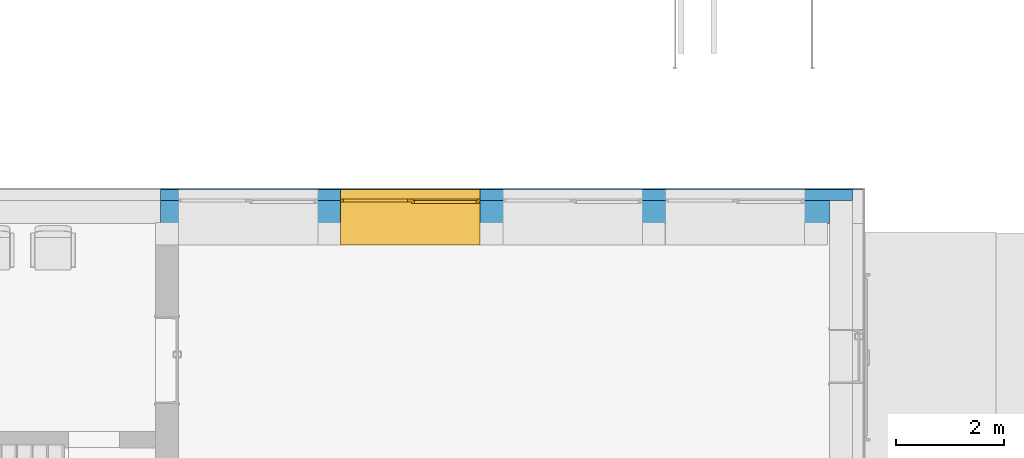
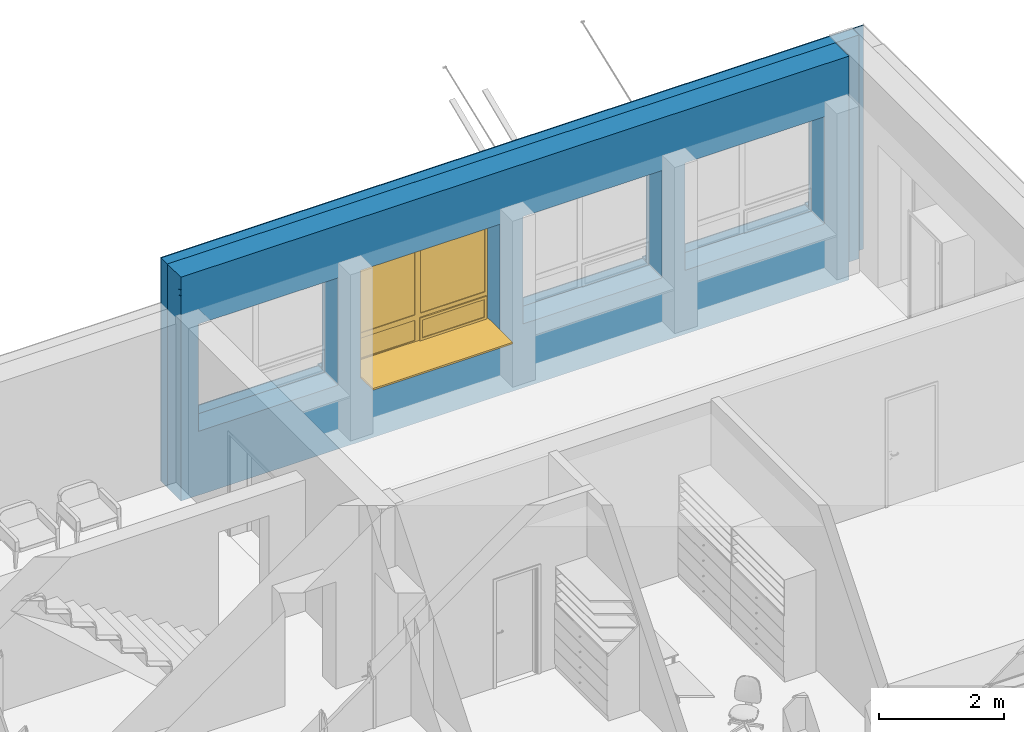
# One storey, part 99 of 194: 3 building element parts, 1 window, 4 openings, 1 element without a shape of its own.
"""IFC2X3 building model written with IfcOpenShell, lengths in millimetres."""

from ifc_helpers import new_model, entity, si_unit, converted_unit, derived_unit, money_unit, direction, frame, origin_with_axes, origin_2d_with_axis, place, context, subcontext, project, spatial, polyline, rectangle, outline, extrude, boolean, open_shell, faceted_brep, surface_model, material, type_object, element, fill, aggregate, save


model = new_model("IFC2X3")

# Units and contexts
model_context = context("Model", 3, precision=1e-05, world=origin_with_axes(), true_north=direction((0.0, 1.0)))
body_context = subcontext(model_context, "Body", "Model", "MODEL_VIEW")
ifc_project = project(units=[si_unit("LENGTHUNIT", "METRE", prefix="MILLI"), si_unit("AREAUNIT", "SQUARE_METRE"), si_unit("VOLUMEUNIT", "CUBIC_METRE"), converted_unit("PLANEANGLEUNIT", "DEGREE", entity("IfcPlaneAngleMeasure", 0.0174532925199), si_unit("PLANEANGLEUNIT", "RADIAN"), dimensions=[0, 0, 0, 0, 0, 0, 0]), si_unit("SOLIDANGLEUNIT", "STERADIAN"), money_unit("EUR"), converted_unit("TIMEUNIT", "Year", entity("IfcTimeMeasure", 31556926.0), si_unit("TIMEUNIT", "SECOND"), dimensions=[0, 0, 1, 0, 0, 0, 0]), si_unit("MASSUNIT", "GRAM", prefix="KILO"), si_unit("THERMODYNAMICTEMPERATUREUNIT", "DEGREE_CELSIUS"), si_unit("LUMINOUSINTENSITYUNIT", "LUMEN"), si_unit("ENERGYUNIT", "JOULE", prefix="MEGA"), derived_unit("THERMALCONDUCTANCEUNIT", [(si_unit("POWERUNIT", "WATT"), 1), (si_unit("LENGTHUNIT", "METRE"), -1), (si_unit("THERMODYNAMICTEMPERATUREUNIT", "KELVIN"), -1)]), derived_unit("SPECIFICHEATCAPACITYUNIT", [(si_unit("ENERGYUNIT", "JOULE"), 1), (si_unit("MASSUNIT", "GRAM", prefix="KILO"), -1), (si_unit("THERMODYNAMICTEMPERATUREUNIT", "KELVIN"), -1)]), derived_unit("MASSDENSITYUNIT", [(si_unit("MASSUNIT", "GRAM", prefix="KILO"), 1), (si_unit("VOLUMEUNIT", "CUBIC_METRE"), -1)])], contexts=[model_context])

# Site, building, storey
site_placement = place(None, origin_with_axes())
site = spatial("IfcSite", under=ifc_project, at=site_placement, Name="Site", CompositionType="ELEMENT")
building_placement = place(site_placement, origin_with_axes())
building = spatial("IfcBuilding", under=site, at=building_placement, Name="Building", CompositionType="ELEMENT")
storey_placement = place(building_placement, frame((0.0, 0.0, 3000.0), z_axis=(0.0, 0.0, 1.0), x_axis=(1.0, 0.0, 0.0)))
storey = spatial("IfcBuildingStorey", under=building, at=storey_placement, Name="2 KORRUS", CompositionType="ELEMENT", Elevation=3000.0)

# Window
window_style = type_object("IfcWindowStyle", Name="A2   2\xa0580×2\xa0100", ConstructionType="NOTDEFINED", OperationType="USERDEFINED", ParameterTakesPrecedence=False, Sizeable=False)
wall_placement = place(storey_placement, frame((87829.1670684, 47302.325893, -400.0), z_axis=(0.0, 0.0, 1.0), x_axis=(1.0, 0.0, 0.0)))
opening_1_placement = place(wall_placement, frame((4618.18571631, 0.0, 1250.0), z_axis=(0.0, 0.0, 1.0), x_axis=(1.0, 0.0, 0.0)))
window_placement = place(opening_1_placement, frame((1290.0, 0.0, 0.0), z_axis=(0.0, 0.0, 1.0), x_axis=(-1.0, 0.0, 0.0)))
window = element("IfcWindow", 1, at=window_placement, inside=storey, type_object=window_style, Name="välisaken * Double Window 22", OverallHeight=2100.0, OverallWidth=2580.0, context=body_context, shape_type="SurfaceModel", body=[
    faceted_brep([(2580.0, -219.999999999, 5.0), (2580.0, -19.9999999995, 5.0), (2580.0, -19.9999999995, 30.0), (2580.0, -219.999999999, 19.5184441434), (0.0, -19.9999999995, 5.0), (0.0, -219.999999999, 5.0), (0.0, -19.9999999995, 30.0), (0.0, -219.999999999, 19.5184441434)], [[[0, 1, 2, 3]], [[4, 1, 0, 5]], [[1, 4, 6, 2]], [[3, 2, 6, 7]], [[5, 0, 3, 7]], [[4, 5, 7, 6]]]),
    faceted_brep([(2580.0, -19.9999999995, 0.0), (2580.0, -19.9999999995, 5.0), (2580.0, -219.999999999, 5.0), (2580.0, -219.999999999, 0.0), (0.0, -19.9999999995, 0.0), (0.0, -19.9999999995, 5.0), (0.0, -219.999999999, 5.0), (0.0, -219.999999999, 0.0)], [[[0, 1, 2, 3]], [[4, 5, 1, 0]], [[1, 5, 6, 2]], [[3, 2, 6, 7]], [[0, 3, 7, 4]], [[7, 6, 5, 4]]]),
    faceted_brep([(0.0, 30.0000000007, 0.0), (0.0, 30.0000000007, 30.0), (0.0, 430.0, 30.0), (0.0, 430.0, 0.0), (2580.0, 30.0000000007, 0.0), (2580.0, 30.0000000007, 30.0), (2580.0, 430.0, 30.0), (2580.0, 830.000000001, 30.0), (0.0, 830.000000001, 30.0), (0.0, 830.000000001, 0.0), (2580.0, 830.000000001, 0.0), (2580.0, 430.0, 0.0)], [[[0, 1, 2, 3]], [[4, 5, 1, 0]], [[1, 5, 6, 7, 8, 2]], [[3, 2, 8, 9]], [[0, 3, 9, 10, 11, 4]], [[11, 6, 5, 4]], [[10, 7, 6, 11]], [[9, 8, 7, 10]]]),
    faceted_brep([(25.0, 30.0000000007, 475.0), (25.0, 30.0000000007, 50.0), (0.0, 30.0000000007, 50.0), (0.0, 30.0000000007, 2050.0), (50.0, 30.0000000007, 2050.0), (50.0, 30.0000000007, 550.0), (50.0, 30.0000000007, 475.0), (25.0, 5.00000000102, 475.0), (25.0, 5.00000000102, 50.0), (50.0, 5.00000000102, 50.0), (50.0, -19.9999999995, 50.0), (0.0, -19.9999999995, 50.0), (0.0, -19.9999999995, 2050.0), (50.0, -19.9999999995, 2050.0), (50.0, -19.9999999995, 550.0), (50.0, 5.00000000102, 475.0), (50.0, -19.9999999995, 450.0), (50.0, 5.00000000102, 450.0)], [[[0, 1, 2, 3, 4, 5, 6]], [[1, 0, 7, 8]], [[8, 9, 10, 11, 2, 1]], [[2, 11, 12, 3]], [[3, 12, 13, 4]], [[4, 13, 14, 5]], [[15, 6, 5, 14, 16, 17]], [[0, 6, 15, 7]], [[9, 8, 7, 15, 17]], [[9, 17, 16, 10]], [[11, 10, 16, 14, 13, 12]]]),
    faceted_brep([(1265.0, 30.0000000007, 50.0), (1265.0, 30.0000000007, 475.0), (1240.0, 30.0000000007, 475.0), (1240.0, 30.0000000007, 550.0), (1240.0, 30.0000000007, 2050.0), (1340.0, 30.0000000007, 2050.0), (1340.0, 30.0000000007, 550.0), (1340.0, 30.0000000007, 450.0), (1340.0, 30.0000000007, 50.0), (1265.0, 5.00000000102, 50.0), (1265.0, 5.00000000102, 475.0), (1240.0, 5.00000000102, 475.0), (1240.0, 5.00000000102, 450.0), (1240.0, -19.9999999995, 450.0), (1240.0, -19.9999999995, 550.0), (1240.0, -19.9999999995, 2050.0), (1340.0, -19.9999999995, 2050.0), (1340.0, -19.9999999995, 550.0), (1340.0, -19.9999999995, 450.0), (1340.0, -19.9999999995, 50.0), (1240.0, -19.9999999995, 50.0), (1240.0, 5.00000000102, 50.0)], [[[0, 1, 2, 3, 4, 5, 6, 7, 8]], [[1, 0, 9, 10]], [[11, 2, 1, 10]], [[11, 12, 13, 14, 3, 2]], [[3, 14, 15, 4]], [[4, 15, 16, 5]], [[5, 16, 17, 6]], [[6, 17, 18, 7]], [[7, 18, 19, 8]], [[9, 0, 8, 19, 20, 21]], [[12, 11, 10, 9, 21]], [[12, 21, 20, 13]], [[18, 17, 16, 15, 14, 13, 20, 19]]]),
    faceted_brep([(1240.0, 30.0000000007, 475.0), (50.0, 30.0000000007, 475.0), (50.0, 30.0000000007, 550.0), (1240.0, 30.0000000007, 550.0), (50.0, 5.00000000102, 475.0), (1240.0, 5.00000000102, 475.0), (50.0, 5.00000000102, 450.0), (50.0, -19.9999999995, 450.0), (50.0, -19.9999999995, 550.0), (1240.0, -19.9999999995, 550.0), (1240.0, -19.9999999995, 450.0), (1240.0, 5.00000000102, 450.0)], [[[0, 1, 2, 3]], [[4, 1, 0, 5]], [[4, 6, 7, 8, 2, 1]], [[2, 8, 9, 3]], [[5, 0, 3, 9, 10, 11]], [[6, 4, 5, 11]], [[6, 11, 10, 7]], [[10, 9, 8, 7]]]),
    faceted_brep([(50.0, 5.00000000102, 50.0), (25.0, 5.00000000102, 50.0), (25.0, 30.0000000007, 50.0), (0.0, 30.0000000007, 50.0), (0.0, -19.9999999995, 50.0), (50.0, -19.9999999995, 50.0), (1240.0, 5.00000000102, 50.0), (1265.0, 5.00000000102, 50.0), (1265.0, 5.00000000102, 25.0), (25.0, 5.00000000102, 25.0), (25.0, 30.0000000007, 25.0), (1265.0, 30.0000000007, 25.0), (1265.0, 30.0000000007, 50.0), (1340.0, 30.0000000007, 50.0), (2530.0, 30.0000000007, 50.0), (2580.0, 30.0000000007, 50.0), (2580.0, 30.0000000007, 0.0), (0.0, 30.0000000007, 0.0), (0.0, -19.9999999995, 0.0), (2580.0, -19.9999999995, 50.0), (2530.0, -19.9999999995, 50.0), (1340.0, -19.9999999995, 50.0), (1240.0, -19.9999999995, 50.0), (2580.0, -19.9999999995, 0.0)], [[[0, 1, 2, 3, 4, 5]], [[1, 0, 6, 7, 8, 9]], [[10, 2, 1, 9]], [[11, 12, 13, 14, 15, 16, 17, 3, 2, 10]], [[17, 18, 4, 3]], [[19, 20, 21, 22, 5, 4, 18, 23]], [[6, 0, 5, 22]], [[7, 6, 22, 21, 13, 12]], [[7, 12, 11, 8]], [[11, 10, 9, 8]], [[13, 21, 20, 14]], [[14, 20, 19, 15]], [[15, 19, 23, 16]], [[16, 23, 18, 17]]]),
    faceted_brep([(2530.0, -19.9999999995, 450.0), (2530.0, -19.9999999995, 550.0), (2530.0, 30.0000000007, 550.0), (2530.0, 30.0000000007, 450.0), (2530.0, -19.9999999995, 50.0), (2580.0, -19.9999999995, 50.0), (2580.0, -19.9999999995, 2050.0), (2530.0, -19.9999999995, 2050.0), (2530.0, 30.0000000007, 2050.0), (2580.0, 30.0000000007, 2050.0), (2580.0, 30.0000000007, 50.0), (2530.0, 30.0000000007, 50.0)], [[[0, 1, 2, 3]], [[0, 4, 5, 6, 7, 1]], [[1, 7, 8, 2]], [[3, 2, 8, 9, 10, 11]], [[4, 0, 3, 11]], [[5, 4, 11, 10]], [[6, 5, 10, 9]], [[7, 6, 9, 8]]]),
    faceted_brep([(1340.0, -19.9999999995, 450.0), (1340.0, -19.9999999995, 550.0), (1340.0, 30.0000000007, 550.0), (1340.0, 30.0000000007, 450.0), (2530.0, -19.9999999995, 450.0), (2530.0, -19.9999999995, 550.0), (2530.0, 30.0000000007, 550.0), (2530.0, 30.0000000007, 450.0)], [[[0, 1, 2, 3]], [[0, 4, 5, 1]], [[1, 5, 6, 2]], [[3, 2, 6, 7]], [[4, 0, 3, 7]], [[5, 4, 7, 6]]]),
    faceted_brep([(1340.0, -19.9999999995, 2050.0), (1240.0, -19.9999999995, 2050.0), (1240.0, 30.0000000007, 2050.0), (1340.0, 30.0000000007, 2050.0), (2530.0, -19.9999999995, 2050.0), (2580.0, -19.9999999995, 2050.0), (2580.0, -19.9999999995, 2100.0), (0.0, -19.9999999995, 2100.0), (0.0, -19.9999999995, 2050.0), (50.0, -19.9999999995, 2050.0), (50.0, 30.0000000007, 2050.0), (0.0, 30.0000000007, 2050.0), (0.0, 30.0000000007, 2100.0), (2580.0, 30.0000000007, 2100.0), (2580.0, 30.0000000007, 2050.0), (2530.0, 30.0000000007, 2050.0)], [[[0, 1, 2, 3]], [[0, 4, 5, 6, 7, 8, 9, 1]], [[1, 9, 10, 2]], [[3, 2, 10, 11, 12, 13, 14, 15]], [[4, 0, 3, 15]], [[5, 4, 15, 14]], [[6, 5, 14, 13]], [[7, 6, 13, 12]], [[8, 7, 12, 11]], [[9, 8, 11, 10]]]),
    surface_model("IfcShellBasedSurfaceModel", [(2530.0, -4.9999999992, 550.0), (2530.0, -4.9999999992, 2050.0), (1340.0, -4.9999999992, 2050.0), (1340.0, -4.9999999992, 550.0)], [open_shell([[[0, 1, 2, 3]]])]),
    surface_model("IfcShellBasedSurfaceModel", [(2530.0, 15.0000000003, 550.0), (1340.0, 15.0000000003, 550.0), (1340.0, 15.0000000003, 2050.0), (2530.0, 15.0000000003, 2050.0)], [open_shell([[[0, 1, 2, 3]]])]),
    surface_model("IfcShellBasedSurfaceModel", [(1240.0, -4.9999999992, 550.0), (1240.0, -4.9999999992, 2050.0), (50.0, -4.9999999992, 2050.0), (50.0, -4.9999999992, 550.0)], [open_shell([[[0, 1, 2, 3]]])]),
    surface_model("IfcShellBasedSurfaceModel", [(1240.0, 15.0000000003, 550.0), (50.0, 15.0000000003, 550.0), (50.0, 15.0000000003, 2050.0), (1240.0, 15.0000000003, 2050.0)], [open_shell([[[0, 1, 2, 3]]])]),
    surface_model("IfcShellBasedSurfaceModel", [(2530.0, -4.9999999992, 50.0), (2530.0, -4.9999999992, 450.0), (1340.0, -4.9999999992, 450.0), (1340.0, -4.9999999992, 50.0)], [open_shell([[[0, 1, 2, 3]]])]),
    surface_model("IfcShellBasedSurfaceModel", [(2530.0, 15.0000000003, 50.0), (1340.0, 15.0000000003, 50.0), (1340.0, 15.0000000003, 450.0), (2530.0, 15.0000000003, 450.0)], [open_shell([[[0, 1, 2, 3]]])]),
    faceted_brep([(1215.0, 5.00000000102, 425.0), (1265.0, 5.00000000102, 425.0), (1265.0, 55.0000000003, 425.0), (1215.0, 55.0000000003, 425.0), (1215.0, 5.00000000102, 75.0), (1265.0, 5.00000000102, 75.0), (1265.0, 55.0000000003, 75.0), (1215.0, 55.0000000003, 75.0)], [[[0, 1, 2, 3]], [[0, 4, 5, 1]], [[1, 5, 6, 2]], [[3, 2, 6, 7]], [[4, 0, 3, 7]], [[5, 4, 7, 6]]]),
    faceted_brep([(74.9999999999, 5.00000000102, 75.0), (25.0, 5.00000000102, 75.0), (25.0, 55.0000000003, 75.0), (74.9999999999, 55.0000000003, 75.0), (74.9999999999, 5.00000000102, 425.0), (25.0, 5.00000000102, 425.0), (25.0, 55.0000000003, 425.0), (74.9999999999, 55.0000000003, 425.0)], [[[0, 1, 2, 3]], [[0, 4, 5, 1]], [[1, 5, 6, 2]], [[3, 2, 6, 7]], [[4, 0, 3, 7]], [[5, 4, 7, 6]]]),
    faceted_brep([(25.0, 5.00000000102, 25.0), (25.0, 5.00000000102, 75.0), (25.0, 55.0000000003, 75.0), (25.0, 55.0000000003, 25.0), (1265.0, 5.00000000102, 25.0), (1265.0, 5.00000000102, 75.0), (1215.0, 5.00000000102, 75.0), (74.9999999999, 5.00000000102, 75.0), (74.9999999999, 55.0000000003, 75.0), (1215.0, 55.0000000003, 75.0), (1265.0, 55.0000000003, 75.0), (1265.0, 55.0000000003, 25.0)], [[[0, 1, 2, 3]], [[0, 4, 5, 6, 7, 1]], [[1, 7, 8, 2]], [[3, 2, 8, 9, 10, 11]], [[4, 0, 3, 11]], [[5, 4, 11, 10]], [[6, 5, 10, 9]], [[7, 6, 9, 8]]]),
    faceted_brep([(1265.0, 5.00000000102, 475.0), (1265.0, 5.00000000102, 425.0), (1265.0, 55.0000000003, 425.0), (1265.0, 55.0000000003, 475.0), (25.0, 5.00000000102, 475.0), (25.0, 5.00000000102, 425.0), (74.9999999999, 5.00000000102, 425.0), (1215.0, 5.00000000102, 425.0), (1215.0, 55.0000000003, 425.0), (74.9999999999, 55.0000000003, 425.0), (25.0, 55.0000000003, 425.0), (25.0, 55.0000000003, 475.0)], [[[0, 1, 2, 3]], [[0, 4, 5, 6, 7, 1]], [[1, 7, 8, 2]], [[3, 2, 8, 9, 10, 11]], [[4, 0, 3, 11]], [[5, 4, 11, 10]], [[6, 5, 10, 9]], [[7, 6, 9, 8]]]),
    surface_model("IfcShellBasedSurfaceModel", [(1215.0, 20.0000000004, 75.0), (1215.0, 20.0000000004, 425.0), (74.9999999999, 20.0000000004, 425.0), (74.9999999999, 20.0000000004, 75.0)], [open_shell([[[0, 1, 2, 3]]])]),
    surface_model("IfcShellBasedSurfaceModel", [(1215.0, 40.0000000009, 75.0), (74.9999999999, 40.0000000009, 75.0), (74.9999999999, 40.0000000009, 425.0), (1215.0, 40.0000000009, 425.0)], [open_shell([[[0, 1, 2, 3]]])]),
])

# Wall, opening
wall_type = type_object("IfcWallType", Name="VS4", PredefinedType="NOTDEFINED")
wall = element("IfcWall", 2, at=wall_placement, inside=storey, type_object=wall_type, Name="VS4")
opening_1 = element("IfcOpeningElement", 3, at=opening_1_placement, cuts=wall, Name="välisaken * Double Window 22", context=body_context, shape_type="SweptSolid", body=[
    extrude(rectangle(XDim=2580.0, YDim=2100.0, at=origin_2d_with_axis()), frame((0.0, 19.9999999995, 1050.0), z_axis=(0.0, -1.0, 0.0), x_axis=(1.0, 0.0, 0.0)), (0.0, 0.0, 1.0), 1100.0),
    extrude(rectangle(XDim=2580.0, YDim=2100.0, at=origin_2d_with_axis()), frame((0.0, 19.9999999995, 1050.0), z_axis=(0.0, 1.0, 0.0), x_axis=(1.0, 0.0, 0.0)), (0.0, 0.0, 1.0), 850.0),
])

fill(opening_1, window)

# Opening
opening_2_placement = place(wall_placement, frame((7618.18571631, 0.0, 1250.0), z_axis=(0.0, 0.0, 1.0), x_axis=(1.0, 0.0, 0.0)))
element("IfcOpeningElement", 4, at=opening_2_placement, cuts=wall, Name="välisaken * Double Window 22", context=body_context, shape_type="SweptSolid", body=[
    extrude(rectangle(XDim=2580.0, YDim=2100.0, at=origin_2d_with_axis()), frame((0.0, 19.9999999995, 1050.0), z_axis=(0.0, -1.0, 0.0), x_axis=(1.0, 0.0, 0.0)), (0.0, 0.0, 1.0), 1100.0),
    extrude(rectangle(XDim=2580.0, YDim=2100.0, at=origin_2d_with_axis()), frame((0.0, 19.9999999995, 1050.0), z_axis=(0.0, 1.0, 0.0), x_axis=(1.0, 0.0, 0.0)), (0.0, 0.0, 1.0), 850.0),
])

opening_3_placement = place(wall_placement, frame((10622.6003401, 0.0, 1250.0), z_axis=(0.0, 0.0, 1.0), x_axis=(1.0, 0.0, 0.0)))
element("IfcOpeningElement", 5, at=opening_3_placement, cuts=wall, Name="välisaken * Double Window 22", context=body_context, shape_type="SweptSolid", body=[
    extrude(rectangle(XDim=2580.0, YDim=2100.0, at=origin_2d_with_axis()), frame((0.0, 19.9999999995, 1050.0), z_axis=(0.0, -1.0, 0.0), x_axis=(1.0, 0.0, 0.0)), (0.0, 0.0, 1.0), 1100.0),
    extrude(rectangle(XDim=2580.0, YDim=2100.0, at=origin_2d_with_axis()), frame((0.0, 19.9999999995, 1050.0), z_axis=(0.0, 1.0, 0.0), x_axis=(1.0, 0.0, 0.0)), (0.0, 0.0, 1.0), 850.0),
])

opening_4_placement = place(wall_placement, frame((1618.73994525, 0.0, 1250.0), z_axis=(0.0, 0.0, 1.0), x_axis=(1.0, 0.0, 0.0)))
element("IfcOpeningElement", 6, at=opening_4_placement, cuts=wall, Name="välisaken * Double Window 22", context=body_context, shape_type="SweptSolid", body=[
    extrude(rectangle(XDim=2580.0, YDim=2100.0, at=origin_2d_with_axis()), frame((0.0, 19.9999999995, 1050.0), z_axis=(0.0, -1.0, 0.0), x_axis=(1.0, 0.0, 0.0)), (0.0, 0.0, 1.0), 1100.0),
    extrude(rectangle(XDim=2580.0, YDim=2100.0, at=origin_2d_with_axis()), frame((0.0, 19.9999999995, 1050.0), z_axis=(0.0, 1.0, 0.0), x_axis=(1.0, 0.0, 0.0)), (0.0, 0.0, 1.0), 850.0),
])

# Building element part
ifc_material_1 = material(Name="Tellis - Konstuktsioon")
building_element_part_1_placement = place(wall_placement, origin_with_axes())
building_element_part_1 = element("IfcBuildingElementPart", 7, at=building_element_part_1_placement, material=ifc_material_1, Name="Tellis - Konstuktsioon", context=body_context, shape_type="CSG", body=[
    boolean("DIFFERENCE", boolean("DIFFERENCE", boolean("DIFFERENCE", boolean("DIFFERENCE", boolean("DIFFERENCE", boolean("DIFFERENCE", boolean("DIFFERENCE", extrude(outline(polyline([(0.0, -430.0), (13016.0388703, -430.0), (13016.0388703, 0.0), (0.0, 0.0), (0.0, -430.0)])), origin_with_axes(), (0.0, 0.0, 1.0), 4380.0), faceted_brep([(0.0, -430.0, 4010.11334593), (15.916542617, -430.0, 4010.11334593), (15.916542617, -430.0, 4012.73673389), (15.6607950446, -430.0, 4014.34624258), (14.9324875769, -430.0, 4015.71071817), (13.8424984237, -430.0, 4016.6224316), (13.0257764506, -430.0, 4016.90140389), (0.0, -430.0, 4019.18424271), (0.0, -354.519551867, 3985.58826165), (15.916542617, -354.519551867, 3985.58826165), (15.916542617, -354.519551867, 3988.21164961), (15.6607950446, -354.519551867, 3989.82115831), (14.9324875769, -354.519551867, 3991.18563389), (13.8424984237, -354.519551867, 3992.09734733), (13.0257764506, -354.519551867, 3992.37631961), (0.0, -354.519551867, 3994.65915843)], [[[0, 1, 2, 3, 4, 5, 6, 7]], [[1, 0, 8, 9]], [[2, 1, 9, 10]], [[3, 2, 10, 11]], [[4, 3, 11, 12]], [[5, 4, 12, 13]], [[6, 5, 13, 14]], [[7, 6, 14, 15]], [[8, 0, 7, 15]], [[8, 15, 14, 13, 12, 11, 10, 9]]])), faceted_brep([(15.6607950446, -430.0, 4132.05614005), (15.916542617, -430.0, 4133.66564874), (15.916542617, -430.0, 4136.28903671), (0.0, -430.0, 4136.28903671), (0.0, -430.0, 4127.21813993), (13.0257764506, -430.0, 4129.50097875), (13.8424984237, -430.0, 4129.77995103), (14.9324875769, -430.0, 4130.69166447), (15.6607950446, -354.519551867, 4107.53105577), (15.916542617, -354.519551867, 4109.14056446), (15.916542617, -354.519551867, 4111.76395243), (0.0, -354.519551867, 4111.76395243), (0.0, -354.519551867, 4102.69305565), (13.0257764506, -354.519551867, 4104.97589447), (13.8424984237, -354.519551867, 4105.25486675), (14.9324875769, -354.519551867, 4106.16658019)], [[[0, 1, 2, 3, 4, 5, 6, 7]], [[1, 0, 8, 9]], [[2, 1, 9, 10]], [[3, 2, 10, 11]], [[12, 4, 3, 11]], [[5, 4, 12, 13]], [[6, 5, 13, 14]], [[7, 6, 14, 15]], [[0, 7, 15, 8]], [[12, 11, 10, 9, 8, 15, 14, 13]]])), faceted_brep([(12365.9726529, 0.0, 4380.0), (12366.0388626, -430.0, 4380.0), (13016.0388703, -430.0, 4380.0), (13016.0388703, 0.0, 4380.0), (12366.0388626, -430.0, 0.0), (12365.9726529, 0.0, 0.0), (13016.0388703, -430.0, 0.0), (13016.0388703, 0.0, 0.0)], [[[0, 1, 2, 3]], [[4, 1, 0, 5]], [[1, 4, 6, 2]], [[2, 6, 7, 3]], [[5, 0, 3, 7]], [[4, 5, 7, 6]]])), faceted_brep([(124.191637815, 200.0, 1280.0), (124.191637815, 200.0, 3380.0), (12406.3440914, 200.0, 3380.0), (12406.3440914, 200.0, 1280.0), (124.191637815, 90.86534167, 1280.0), (124.191637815, 90.86534167, 3380.0), (12406.3440914, 90.8653416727, 3380.0), (12406.3440914, 90.8653416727, 1280.0)], [[[0, 1, 2, 3]], [[1, 0, 4, 5]], [[2, 1, 5, 6]], [[3, 2, 6, 7]], [[0, 3, 7, 4]], [[4, 7, 6, 5]]])), faceted_brep([(12795.9418628, 200.0, 4380.0), (12795.972658, 0.0, 4380.0), (13016.0388703, 0.0, 4380.0), (13016.0388703, 200.0, 4380.0), (12795.972658, 0.0, 0.0), (12795.9418628, 200.0, 0.0), (13016.0388703, 0.0, 0.0), (13016.0388703, 200.0, 0.0)], [[[0, 1, 2, 3]], [[4, 1, 0, 5]], [[1, 4, 6, 2]], [[2, 6, 7, 3]], [[5, 0, 3, 7]], [[4, 5, 7, 6]]])), faceted_brep([(124.191637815, 200.0, 1280.0), (12406.3440914, 200.0, 1280.0), (12406.3440914, 200.0, 3380.0), (124.191637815, 200.0, 3380.0), (124.191637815, 220.0, 1280.0), (12406.3440914, 220.0, 1280.0), (12406.3440914, 220.0, 3380.0), (124.191637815, 220.0, 3380.0)], [[[0, 1, 2, 3]], [[4, 5, 1, 0]], [[5, 6, 2, 1]], [[6, 7, 3, 2]], [[7, 4, 0, 3]], [[4, 7, 6, 5]]])), faceted_brep([(12995.9387857, 220.0, 0.0), (12995.9387857, 220.0, 4380.0), (13016.0388703, 220.0, 4380.0), (13016.0388703, 220.0, 0.0), (12995.9418652, 200.0, 4380.0), (12995.9418652, 200.0, 0.0), (13016.0388703, 200.0, 4380.0), (13016.0388703, 200.0, 0.0)], [[[0, 1, 2, 3]], [[4, 1, 0, 5]], [[1, 4, 6, 2]], [[6, 7, 3, 2]], [[5, 0, 3, 7]], [[4, 5, 7, 6]]])),
])

ifc_material_2 = material(Name="Soojustus - Plastik Kõva")
building_element_part_2_placement = place(wall_placement, origin_with_axes())
building_element_part_2 = element("IfcBuildingElementPart", 8, at=building_element_part_2_placement, material=ifc_material_2, Name="Soojustus - Plastik Kõva", context=body_context, shape_type="CSG", body=[
    boolean("DIFFERENCE", boolean("DIFFERENCE", boolean("DIFFERENCE", boolean("DIFFERENCE", boolean("DIFFERENCE", boolean("DIFFERENCE", boolean("DIFFERENCE", extrude(outline(polyline([(0.0, 0.0), (13016.0388703, 0.0), (13016.0388703, 200.0), (0.0, 200.0), (0.0, 0.0)])), origin_with_axes(), (0.0, 0.0, 1.0), 4380.0), faceted_brep([(0.0, -430.0, 4010.11334593), (15.916542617, -430.0, 4010.11334593), (15.916542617, -430.0, 4012.73673389), (15.6607950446, -430.0, 4014.34624258), (14.9324875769, -430.0, 4015.71071817), (13.8424984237, -430.0, 4016.6224316), (13.0257764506, -430.0, 4016.90140389), (0.0, -430.0, 4019.18424271), (0.0, -354.519551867, 3985.58826165), (15.916542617, -354.519551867, 3985.58826165), (15.916542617, -354.519551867, 3988.21164961), (15.6607950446, -354.519551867, 3989.82115831), (14.9324875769, -354.519551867, 3991.18563389), (13.8424984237, -354.519551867, 3992.09734733), (13.0257764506, -354.519551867, 3992.37631961), (0.0, -354.519551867, 3994.65915843)], [[[0, 1, 2, 3, 4, 5, 6, 7]], [[1, 0, 8, 9]], [[2, 1, 9, 10]], [[3, 2, 10, 11]], [[4, 3, 11, 12]], [[5, 4, 12, 13]], [[6, 5, 13, 14]], [[7, 6, 14, 15]], [[8, 0, 7, 15]], [[8, 15, 14, 13, 12, 11, 10, 9]]])), faceted_brep([(15.6607950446, -430.0, 4132.05614005), (15.916542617, -430.0, 4133.66564874), (15.916542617, -430.0, 4136.28903671), (0.0, -430.0, 4136.28903671), (0.0, -430.0, 4127.21813993), (13.0257764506, -430.0, 4129.50097875), (13.8424984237, -430.0, 4129.77995103), (14.9324875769, -430.0, 4130.69166447), (15.6607950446, -354.519551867, 4107.53105577), (15.916542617, -354.519551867, 4109.14056446), (15.916542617, -354.519551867, 4111.76395243), (0.0, -354.519551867, 4111.76395243), (0.0, -354.519551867, 4102.69305565), (13.0257764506, -354.519551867, 4104.97589447), (13.8424984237, -354.519551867, 4105.25486675), (14.9324875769, -354.519551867, 4106.16658019)], [[[0, 1, 2, 3, 4, 5, 6, 7]], [[1, 0, 8, 9]], [[2, 1, 9, 10]], [[3, 2, 10, 11]], [[12, 4, 3, 11]], [[5, 4, 12, 13]], [[6, 5, 13, 14]], [[7, 6, 14, 15]], [[0, 7, 15, 8]], [[12, 11, 10, 9, 8, 15, 14, 13]]])), faceted_brep([(12365.9726529, 0.0, 4380.0), (12366.0388626, -430.0, 4380.0), (13016.0388703, -430.0, 4380.0), (13016.0388703, 0.0, 4380.0), (12366.0388626, -430.0, 0.0), (12365.9726529, 0.0, 0.0), (13016.0388703, -430.0, 0.0), (13016.0388703, 0.0, 0.0)], [[[0, 1, 2, 3]], [[4, 1, 0, 5]], [[1, 4, 6, 2]], [[2, 6, 7, 3]], [[5, 0, 3, 7]], [[4, 5, 7, 6]]])), faceted_brep([(124.191637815, 200.0, 1280.0), (124.191637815, 200.0, 3380.0), (12406.3440914, 200.0, 3380.0), (12406.3440914, 200.0, 1280.0), (124.191637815, 90.86534167, 1280.0), (124.191637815, 90.86534167, 3380.0), (12406.3440914, 90.8653416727, 3380.0), (12406.3440914, 90.8653416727, 1280.0)], [[[0, 1, 2, 3]], [[1, 0, 4, 5]], [[2, 1, 5, 6]], [[3, 2, 6, 7]], [[0, 3, 7, 4]], [[4, 7, 6, 5]]])), faceted_brep([(12795.9418628, 200.0, 4380.0), (12795.972658, 0.0, 4380.0), (13016.0388703, 0.0, 4380.0), (13016.0388703, 200.0, 4380.0), (12795.972658, 0.0, 0.0), (12795.9418628, 200.0, 0.0), (13016.0388703, 0.0, 0.0), (13016.0388703, 200.0, 0.0)], [[[0, 1, 2, 3]], [[4, 1, 0, 5]], [[1, 4, 6, 2]], [[2, 6, 7, 3]], [[5, 0, 3, 7]], [[4, 5, 7, 6]]])), faceted_brep([(124.191637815, 200.0, 1280.0), (12406.3440914, 200.0, 1280.0), (12406.3440914, 200.0, 3380.0), (124.191637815, 200.0, 3380.0), (124.191637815, 220.0, 1280.0), (12406.3440914, 220.0, 1280.0), (12406.3440914, 220.0, 3380.0), (124.191637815, 220.0, 3380.0)], [[[0, 1, 2, 3]], [[4, 5, 1, 0]], [[5, 6, 2, 1]], [[6, 7, 3, 2]], [[7, 4, 0, 3]], [[4, 7, 6, 5]]])), faceted_brep([(12995.9387857, 220.0, 0.0), (12995.9387857, 220.0, 4380.0), (13016.0388703, 220.0, 4380.0), (13016.0388703, 220.0, 0.0), (12995.9418652, 200.0, 4380.0), (12995.9418652, 200.0, 0.0), (13016.0388703, 200.0, 4380.0), (13016.0388703, 200.0, 0.0)], [[[0, 1, 2, 3]], [[4, 1, 0, 5]], [[1, 4, 6, 2]], [[6, 7, 3, 2]], [[5, 0, 3, 7]], [[4, 5, 7, 6]]])),
])

ifc_material_3 = material(Name="Tellis - Viimistlus")
building_element_part_3_placement = place(wall_placement, origin_with_axes())
building_element_part_3 = element("IfcBuildingElementPart", 9, at=building_element_part_3_placement, material=ifc_material_3, Name="Tellis - Viimistlus", context=body_context, shape_type="CSG", body=[
    boolean("DIFFERENCE", boolean("DIFFERENCE", boolean("DIFFERENCE", boolean("DIFFERENCE", boolean("DIFFERENCE", boolean("DIFFERENCE", boolean("DIFFERENCE", extrude(outline(polyline([(0.0, 200.0), (13016.0388703, 200.0), (13016.0388703, 220.0), (0.0, 220.0), (0.0, 200.0)])), origin_with_axes(), (0.0, 0.0, 1.0), 4380.0), faceted_brep([(0.0, -430.0, 4010.11334593), (15.916542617, -430.0, 4010.11334593), (15.916542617, -430.0, 4012.73673389), (15.6607950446, -430.0, 4014.34624258), (14.9324875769, -430.0, 4015.71071817), (13.8424984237, -430.0, 4016.6224316), (13.0257764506, -430.0, 4016.90140389), (0.0, -430.0, 4019.18424271), (0.0, -354.519551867, 3985.58826165), (15.916542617, -354.519551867, 3985.58826165), (15.916542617, -354.519551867, 3988.21164961), (15.6607950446, -354.519551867, 3989.82115831), (14.9324875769, -354.519551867, 3991.18563389), (13.8424984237, -354.519551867, 3992.09734733), (13.0257764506, -354.519551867, 3992.37631961), (0.0, -354.519551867, 3994.65915843)], [[[0, 1, 2, 3, 4, 5, 6, 7]], [[1, 0, 8, 9]], [[2, 1, 9, 10]], [[3, 2, 10, 11]], [[4, 3, 11, 12]], [[5, 4, 12, 13]], [[6, 5, 13, 14]], [[7, 6, 14, 15]], [[8, 0, 7, 15]], [[8, 15, 14, 13, 12, 11, 10, 9]]])), faceted_brep([(15.6607950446, -430.0, 4132.05614005), (15.916542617, -430.0, 4133.66564874), (15.916542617, -430.0, 4136.28903671), (0.0, -430.0, 4136.28903671), (0.0, -430.0, 4127.21813993), (13.0257764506, -430.0, 4129.50097875), (13.8424984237, -430.0, 4129.77995103), (14.9324875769, -430.0, 4130.69166447), (15.6607950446, -354.519551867, 4107.53105577), (15.916542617, -354.519551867, 4109.14056446), (15.916542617, -354.519551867, 4111.76395243), (0.0, -354.519551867, 4111.76395243), (0.0, -354.519551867, 4102.69305565), (13.0257764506, -354.519551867, 4104.97589447), (13.8424984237, -354.519551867, 4105.25486675), (14.9324875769, -354.519551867, 4106.16658019)], [[[0, 1, 2, 3, 4, 5, 6, 7]], [[1, 0, 8, 9]], [[2, 1, 9, 10]], [[3, 2, 10, 11]], [[12, 4, 3, 11]], [[5, 4, 12, 13]], [[6, 5, 13, 14]], [[7, 6, 14, 15]], [[0, 7, 15, 8]], [[12, 11, 10, 9, 8, 15, 14, 13]]])), faceted_brep([(12365.9726529, 0.0, 4380.0), (12366.0388626, -430.0, 4380.0), (13016.0388703, -430.0, 4380.0), (13016.0388703, 0.0, 4380.0), (12366.0388626, -430.0, 0.0), (12365.9726529, 0.0, 0.0), (13016.0388703, -430.0, 0.0), (13016.0388703, 0.0, 0.0)], [[[0, 1, 2, 3]], [[4, 1, 0, 5]], [[1, 4, 6, 2]], [[2, 6, 7, 3]], [[5, 0, 3, 7]], [[4, 5, 7, 6]]])), faceted_brep([(124.191637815, 200.0, 1280.0), (124.191637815, 200.0, 3380.0), (12406.3440914, 200.0, 3380.0), (12406.3440914, 200.0, 1280.0), (124.191637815, 90.86534167, 1280.0), (124.191637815, 90.86534167, 3380.0), (12406.3440914, 90.8653416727, 3380.0), (12406.3440914, 90.8653416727, 1280.0)], [[[0, 1, 2, 3]], [[1, 0, 4, 5]], [[2, 1, 5, 6]], [[3, 2, 6, 7]], [[0, 3, 7, 4]], [[4, 7, 6, 5]]])), faceted_brep([(12795.9418628, 200.0, 4380.0), (12795.972658, 0.0, 4380.0), (13016.0388703, 0.0, 4380.0), (13016.0388703, 200.0, 4380.0), (12795.972658, 0.0, 0.0), (12795.9418628, 200.0, 0.0), (13016.0388703, 0.0, 0.0), (13016.0388703, 200.0, 0.0)], [[[0, 1, 2, 3]], [[4, 1, 0, 5]], [[1, 4, 6, 2]], [[2, 6, 7, 3]], [[5, 0, 3, 7]], [[4, 5, 7, 6]]])), faceted_brep([(124.191637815, 200.0, 1280.0), (12406.3440914, 200.0, 1280.0), (12406.3440914, 200.0, 3380.0), (124.191637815, 200.0, 3380.0), (124.191637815, 220.0, 1280.0), (12406.3440914, 220.0, 1280.0), (12406.3440914, 220.0, 3380.0), (124.191637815, 220.0, 3380.0)], [[[0, 1, 2, 3]], [[4, 5, 1, 0]], [[5, 6, 2, 1]], [[6, 7, 3, 2]], [[7, 4, 0, 3]], [[4, 7, 6, 5]]])), faceted_brep([(12995.9387857, 220.0, 0.0), (12995.9387857, 220.0, 4380.0), (13016.0388703, 220.0, 4380.0), (13016.0388703, 220.0, 0.0), (12995.9418652, 200.0, 4380.0), (12995.9418652, 200.0, 0.0), (13016.0388703, 200.0, 4380.0), (13016.0388703, 200.0, 0.0)], [[[0, 1, 2, 3]], [[4, 1, 0, 5]], [[1, 4, 6, 2]], [[6, 7, 3, 2]], [[5, 0, 3, 7]], [[4, 5, 7, 6]]])),
])

aggregate(wall, [building_element_part_1, building_element_part_2, building_element_part_3])

save(model, "model.ifc")
